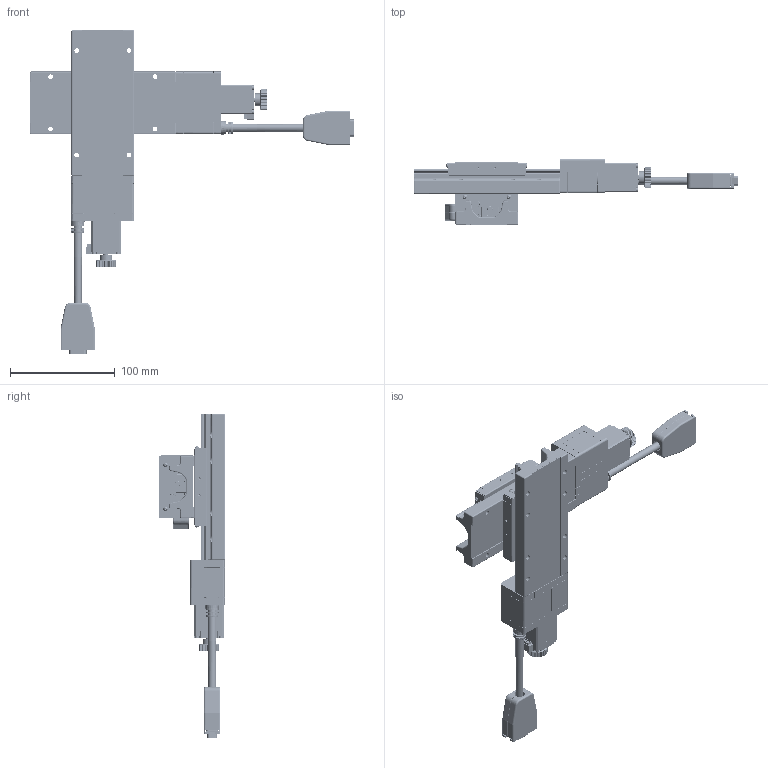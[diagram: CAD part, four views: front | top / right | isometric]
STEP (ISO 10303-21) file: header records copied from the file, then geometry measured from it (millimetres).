
FILE_DESCRIPTION (( 'STEP AP203' ), '1' );
FILE_NAME ('CYN6050-S2?N.STEP', '2023-10-02T00:43:07', ( '' ), ( '' ), 'SwSTEP 2.0', 'SolidWorks 2019', '' );
FILE_SCHEMA (( 'CONFIG_CONTROL_DESIGN' ));
Products named in the file (5): CXN6050-S2?N.STEP; Group1^CXN6050-S2_N(2023_s__)_defeature_GMT.STEP_GMT; Group2^CXN6050-S2_N(2023_s__)_defeature_GMT.STEP_GMT; CYN6050-S2?N
Assembly tree (6 placements, depth 3):
  CYN6050-S2?N
    CXN6050-S2?N.STEP
      Group1^CXN6050-S2_N(2023_s__)_defeature_GMT.STEP_GMT
      Group2^CXN6050-S2_N(2023_s__)_defeature_GMT.STEP_GMT
    CXN6050-S2?N.STEP
      Group1^CXN6050-S2_N(2023_s__)_defeature_GMT.STEP_GMT
      Group2^CXN6050-S2_N(2023_s__)_defeature_GMT.STEP_GMT
Bounding box: 310.6 x 63.5 x 310.6 mm (x, y, z)
Volume: 78865.6 mm3; surface area: 205768.6 mm2
Topology: 28 solids, 86 shells, 8454 faces, 22222 edges, 13850 vertices
Faces by surface type: plane 3590, cylinder 2420, torus 824, cone 816, bspline 540, sphere 264
Entity records: 158628 total; most frequent: CARTESIAN_POINT 68963, ORIENTED_EDGE 21619, DIRECTION 13773, EDGE_CURVE 10953, B_SPLINE_CURVE_WITH_KNOTS 7127, VERTEX_POINT 6924, AXIS2_PLACEMENT_3D 6087, EDGE_LOOP 4464
